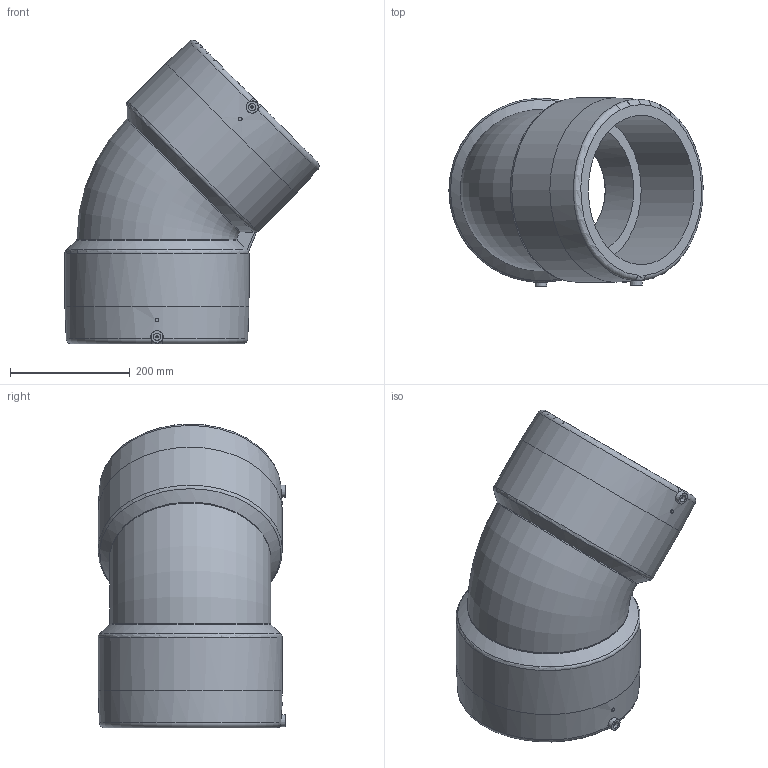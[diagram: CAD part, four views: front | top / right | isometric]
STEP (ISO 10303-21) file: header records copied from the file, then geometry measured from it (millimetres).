
FILE_DESCRIPTION(/* description */ ('Unknown'),/* implementation_level */ '2;1');
FILE_NAME(/* name */ 'GE4P250C',/* time_stamp */ '2020-12-03T12:36:20+01:00',/* author */ ('Unknown'),/* organization */ ('Unknown'),/* preprocessor_version */ 'ST-DEVELOPER v16.7',/* originating_system */ 'Solid Edge',/* authorisation */ 'Unknown');
FILE_SCHEMA (('AUTOMOTIVE_DESIGN {1 0 10303 214 3 1 1}'));
Length unit declared in the file: millimetre
Products named in the file (1): GE4P250C
Bounding box: 425.12 x 314 x 508.22 mm (x, y, z)
Volume: 12123851.9 mm3; surface area: 860230.4 mm2
Topology: 1 solids, 1 shells, 45 faces, 108 edges, 73 vertices
Faces by surface type: cylinder 16, plane 15, cone 6, torus 6, bspline 2
Full cylindrical faces by diameter (mm): 4 x2, 6 x2, 12 x2, 215 x2, 250 x2, 308 x2
Entity records: 1356 total; most frequent: CARTESIAN_POINT 459, DIRECTION 178, ORIENTED_EDGE 150, AXIS2_PLACEMENT_3D 85, EDGE_CURVE 75, EDGE_LOOP 73, FACE_BOUND 73, VERTEX_POINT 58
